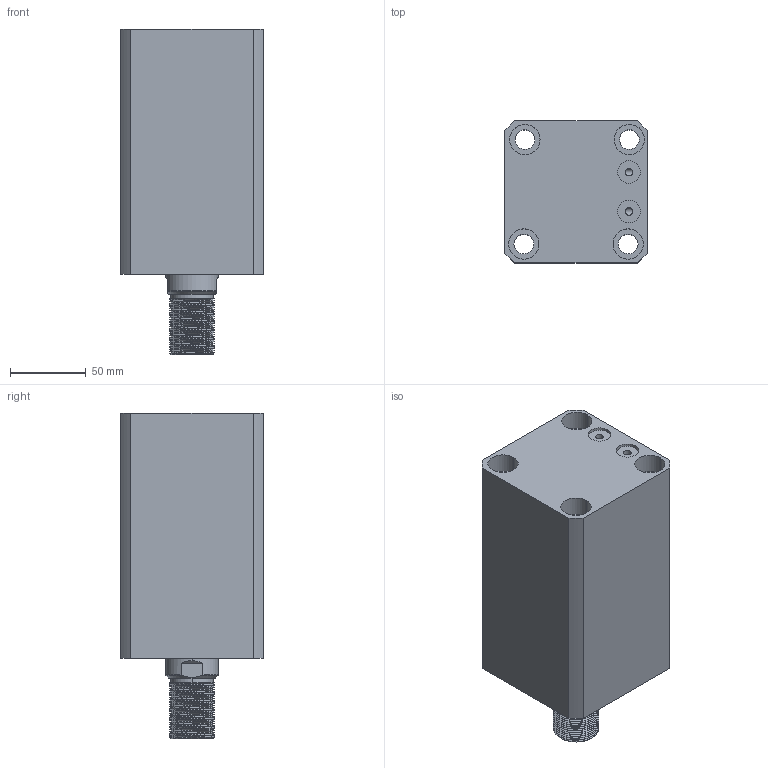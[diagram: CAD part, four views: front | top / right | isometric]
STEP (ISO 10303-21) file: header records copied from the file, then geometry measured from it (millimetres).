
FILE_DESCRIPTION (( 'STEP AP214' ), '1' );
FILE_NAME ('chtb-sdmb63x95w_asm.STEP', '2018-05-18T13:00:11', ( 'Windows' ), ( 'Microsoft' ), 'SwSTEP 2.0', 'SolidWorks 2015', '' );
FILE_SCHEMA (( 'AUTOMOTIVE_DESIGN' ));
Length unit declared in the file: millimetre
Products named in the file (4): CHTB-SDMB63X95NBT; CHTB63X95WHSG; CHTB-63QG; chtb-sdmb63x95w_asm
Assembly tree (3 placements, depth 2):
  chtb-sdmb63x95w_asm
    CHTB-63QG
    CHTB63X95WHSG
    CHTB-SDMB63X95NBT
Bounding box: 94 x 94 x 215 mm (x, y, z)
Volume: 1144506.2 mm3; surface area: 188238.9 mm2
Topology: 3 solids, 3 shells, 218 faces, 628 edges, 427 vertices
Faces by surface type: cylinder 156, plane 33, bspline 14, cone 9, torus 6
Entity records: 22278 total; most frequent: CARTESIAN_POINT 17042, ORIENTED_EDGE 1248, DIRECTION 869, EDGE_CURVE 624, VERTEX_POINT 427, AXIS2_PLACEMENT_3D 339, EDGE_LOOP 251, ADVANCED_FACE 218
